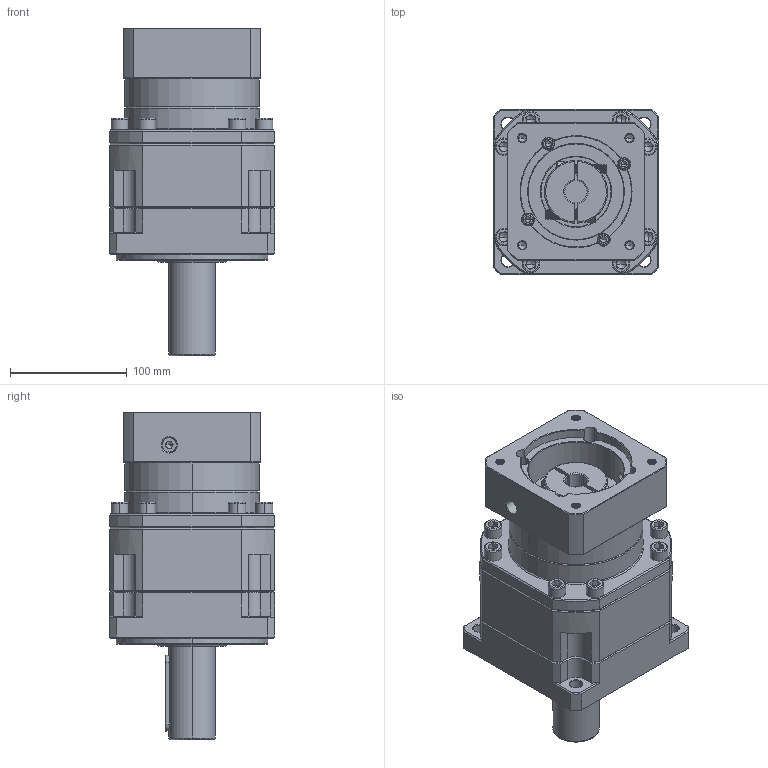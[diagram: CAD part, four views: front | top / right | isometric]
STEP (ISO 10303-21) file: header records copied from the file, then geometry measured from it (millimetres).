
FILE_DESCRIPTION (( 'STEP AP214' ), '1' );
FILE_NAME ('ZB142A-D40-L2-P2-19-95-130-M8.step', '2023-09-02T02:49:43', ( '' ), ( '' ), 'SwSTEP 2.0', 'SolidWorks 2016', '' );
FILE_SCHEMA (( 'AUTOMOTIVE_DESIGN' ));
Length unit declared in the file: millimetre
Products named in the file (1): ZB142A-D40-L2-P2-19-95-130-M8
Bounding box: 142 x 142 x 280.7 mm (x, y, z)
Volume: 2960521.2 mm3; surface area: 239193.8 mm2
Topology: 6 solids, 6 shells, 2550 faces, 6672 edges, 4244 vertices
Faces by surface type: plane 1205, cylinder 493, bspline 405, cone 389, torus 58
Entity records: 135933 total; most frequent: CARTESIAN_POINT 48492, ORIENTED_EDGE 13236, DIRECTION 10840, EDGE_CURVE 6618, VERTEX_POINT 4244, LINE 4214, VECTOR 4214, AXIS2_PLACEMENT_3D 3313
